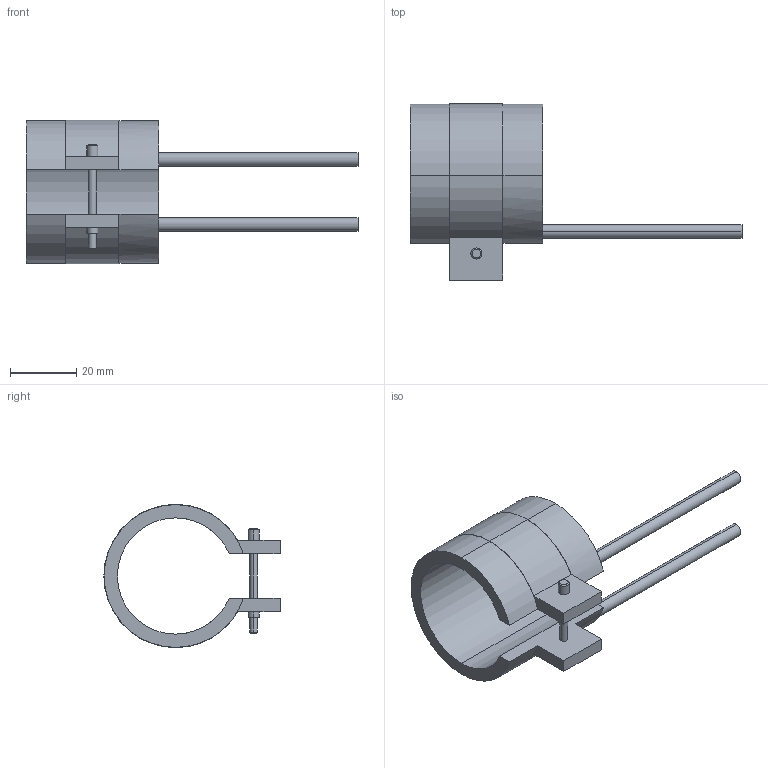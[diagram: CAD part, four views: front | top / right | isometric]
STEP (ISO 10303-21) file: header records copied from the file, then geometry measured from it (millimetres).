
FILE_DESCRIPTION(('CATIA V5 STEP Exchange'),'2;1');
FILE_NAME('C:\Users\Utente\Desktop\IO LAVORO\3D X SITO CF\X SITO\PLASTICA\RF2\14035040.stp','2021-03-31T11:36:24+00:00',('none'),('none'),'CATIA Version 5 Release 20 GA (IN-10)','CATIA V5 STEP AP203','none');
FILE_SCHEMA(('CONFIG_CONTROL_DESIGN'));
Length unit declared in the file: millimetre
Products named in the file (1): 14035040
Bounding box: 100 x 53.1 x 43.2 mm (x, y, z)
Volume: 20732.2 mm3; surface area: 12567.5 mm2
Topology: 1 solids, 1 shells, 45 faces, 116 edges, 76 vertices
Faces by surface type: cylinder 24, plane 17, cone 4
Entity records: 1412 total; most frequent: CARTESIAN_POINT 288, ORIENTED_EDGE 232, DIRECTION 195, EDGE_CURVE 116, AXIS2_PLACEMENT_3D 103, VERTEX_POINT 76, CIRCLE 61, VECTOR 52
